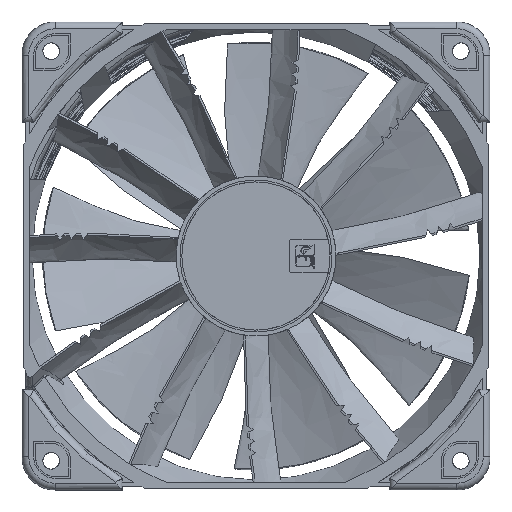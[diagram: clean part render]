
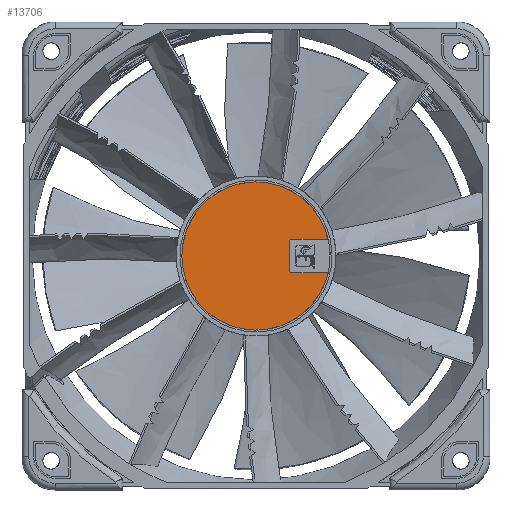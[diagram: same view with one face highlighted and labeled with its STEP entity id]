
A CAD part, front view. The second image highlights one B-rep face of the part: STEP entity #13706.
In plain terms, the highlighted planar face has unit normal (0, -1, 0) as drawn and (0, 0, 1) by its records, which use the part's own axes.
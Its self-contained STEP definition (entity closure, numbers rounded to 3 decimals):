
#1824=CIRCLE('',#15087,0.6);
#1825=CIRCLE('',#15088,0.6);
#1826=CIRCLE('',#15089,0.6);
#1828=CIRCLE('',#15091,0.6);
#1838=CIRCLE('',#15102,19.);
#5744=ORIENTED_EDGE('',*,*,#7969,.F.);
#5745=ORIENTED_EDGE('',*,*,#7968,.F.);
#5746=ORIENTED_EDGE('',*,*,#7975,.F.);
#5747=ORIENTED_EDGE('',*,*,#7994,.F.);
#5748=ORIENTED_EDGE('',*,*,#7973,.T.);
#5749=ORIENTED_EDGE('',*,*,#7972,.F.);
#5750=ORIENTED_EDGE('',*,*,#7971,.F.);
#5751=ORIENTED_EDGE('',*,*,#7970,.F.);
#7968=EDGE_CURVE('',#9442,#9443,#10140,.T.);
#7969=EDGE_CURVE('',#9443,#9444,#1824,.T.);
#7970=EDGE_CURVE('',#9444,#9445,#10141,.T.);
#7971=EDGE_CURVE('',#9445,#9446,#1825,.T.);
#7972=EDGE_CURVE('',#9446,#9447,#10142,.T.);
#7973=EDGE_CURVE('',#9448,#9447,#1826,.T.);
#7975=EDGE_CURVE('',#9449,#9442,#1828,.T.);
#7994=EDGE_CURVE('',#9448,#9449,#1838,.T.);
#9442=VERTEX_POINT('',#37147);
#9443=VERTEX_POINT('',#37148);
#9444=VERTEX_POINT('',#37150);
#9445=VERTEX_POINT('',#37152);
#9446=VERTEX_POINT('',#37154);
#9447=VERTEX_POINT('',#37156);
#9448=VERTEX_POINT('',#37158);
#9449=VERTEX_POINT('',#37160);
#10140=LINE('',#37146,#10837);
#10141=LINE('',#37151,#10838);
#10142=LINE('',#37155,#10839);
#10837=VECTOR('',#17488,1000.);
#10838=VECTOR('',#17491,1000.);
#10839=VECTOR('',#17494,1000.);
#11755=EDGE_LOOP('',(#5744,#5745,#5746,#5747,#5748,#5749,#5750,#5751));
#12629=FACE_BOUND('',#11755,.T.);
#12993=PLANE('',#15104);
#13706=ADVANCED_FACE('',(#12629),#12993,.F.);
#15087=AXIS2_PLACEMENT_3D('',#37149,#17489,#17490);
#15088=AXIS2_PLACEMENT_3D('',#37153,#17492,#17493);
#15089=AXIS2_PLACEMENT_3D('',#37157,#17495,#17496);
#15091=AXIS2_PLACEMENT_3D('',#37161,#17499,#17500);
#15102=AXIS2_PLACEMENT_3D('',#37207,#17529,#17530);
#15104=AXIS2_PLACEMENT_3D('',#37210,#17533,#17534);
#17488=DIRECTION('',(0.,-1.,0.));
#17489=DIRECTION('',(0.,0.,1.));
#17490=DIRECTION('',(1.,0.,0.));
#17491=DIRECTION('',(1.,0.,0.));
#17492=DIRECTION('',(0.,0.,1.));
#17493=DIRECTION('',(-1.,0.,0.));
#17494=DIRECTION('',(0.,1.,0.));
#17495=DIRECTION('',(0.,0.,-1.));
#17496=DIRECTION('',(-1.,0.,0.));
#17499=DIRECTION('',(0.,0.,1.));
#17500=DIRECTION('',(1.,0.,0.));
#17529=DIRECTION('',(0.,0.,-1.));
#17530=DIRECTION('',(1.,0.,0.));
#17533=DIRECTION('',(0.,0.,-1.));
#17534=DIRECTION('',(-1.,0.,0.));
#37146=CARTESIAN_POINT('',(-4.35,18.014,0.5));
#37147=CARTESIAN_POINT('',(-4.35,18.014,0.5));
#37148=CARTESIAN_POINT('',(-4.35,9.2,0.5));
#37149=CARTESIAN_POINT('',(-3.75,9.2,0.5));
#37150=CARTESIAN_POINT('',(-3.75,8.6,0.5));
#37151=CARTESIAN_POINT('',(-3.75,8.6,0.5));
#37152=CARTESIAN_POINT('',(3.75,8.6,0.5));
#37153=CARTESIAN_POINT('',(3.75,9.2,0.5));
#37154=CARTESIAN_POINT('',(4.35,9.2,0.5));
#37155=CARTESIAN_POINT('',(4.35,9.2,0.5));
#37156=CARTESIAN_POINT('',(4.35,18.014,0.5));
#37157=CARTESIAN_POINT('',(3.75,18.014,0.5));
#37158=CARTESIAN_POINT('',(3.872,18.601,0.5));
#37160=CARTESIAN_POINT('',(-3.872,18.601,0.5));
#37161=CARTESIAN_POINT('',(-3.75,18.014,0.5));
#37207=CARTESIAN_POINT('',(0.,0.,0.5));
#37210=CARTESIAN_POINT('',(0.,0.,0.5));
